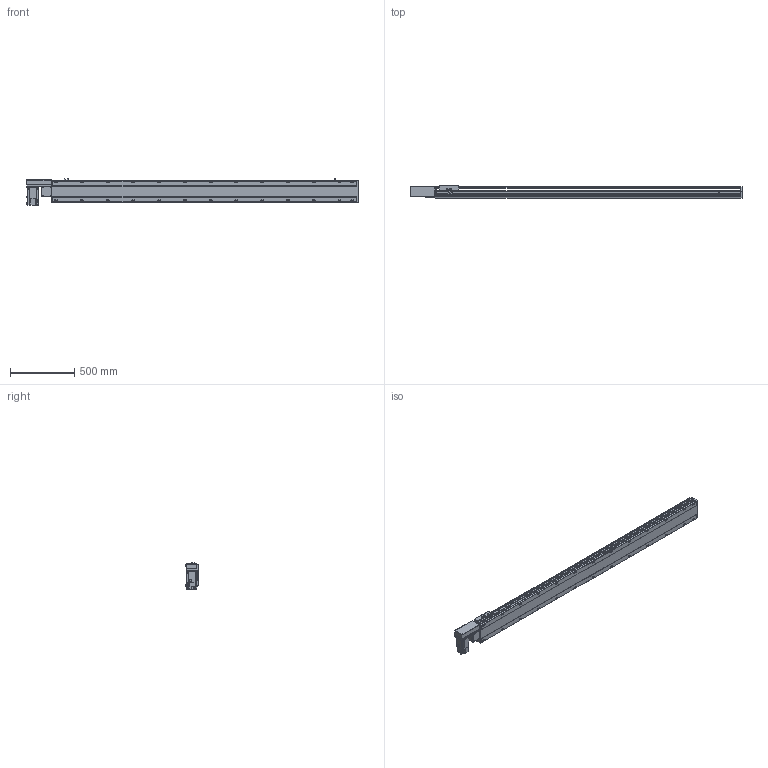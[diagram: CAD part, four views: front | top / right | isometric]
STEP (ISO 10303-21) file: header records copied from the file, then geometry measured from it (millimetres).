
FILE_DESCRIPTION(/* description */ ('STEP AP214'),/* implementation_level */ '2;1');
FILE_NAME(/* name */ 'PBS170-P40-S2100-R-T75-C1-N(0)',/* time_stamp */ '2022-06-07T09:31:41+02:00',/* author */ ('License CC BY-ND 4.0'),/* organization */ ('CADENAS'),/* preprocessor_version */ 'ST-DEVELOPER v18.102',/* originating_system */ 'PARTsolutions',/* authorisation */ ' ');
FILE_SCHEMA (('AUTOMOTIVE_DESIGN {1 0 10303 214 3 1 1}'));
Length unit declared in the file: millimetre
Products named in the file (7): PBS170-P40-S2100-R-T75-C1-N(0); PBS170_sensor; PBS170_plant; PBS170_sliser; T75-p1; PBS170T-R_motors; PBS170-S2100()_body
Assembly tree (8 placements, depth 2):
  PBS170-P40-S2100-R-T75-C1-N(0)
    PBS170_sensor  x3
    PBS170_plant
    PBS170_sliser
    T75-p1
    PBS170T-R_motors
    PBS170-S2100()_body
Bounding box: 2578 x 97 x 205.3 mm (x, y, z)
Volume: 18827172.3 mm3; surface area: 2386226.8 mm2
Topology: 8 solids, 8 shells, 1162 faces, 3075 edges, 2004 vertices
Faces by surface type: plane 717, cylinder 379, cone 56, sphere 8, torus 2
Full cylindrical faces by diameter (mm): 3.242 x4, 4 x2, 4.4 x4, 4.5 x6, 4.917 x4, 6 x9, 6.647 x34, 7 x2, 7.5 x4, 8 x8, 8.5 x26, 10 x4, 10.5 x26, 11 x2, 30 x2, 40 x1, 70 x1
Entity records: 33408 total; most frequent: CARTESIAN_POINT 6273, DIRECTION 5650, ORIENTED_EDGE 5328, EDGE_CURVE 2664, AXIS2_PLACEMENT_3D 1987, VERTEX_POINT 1850, LINE 1676, VECTOR 1676
